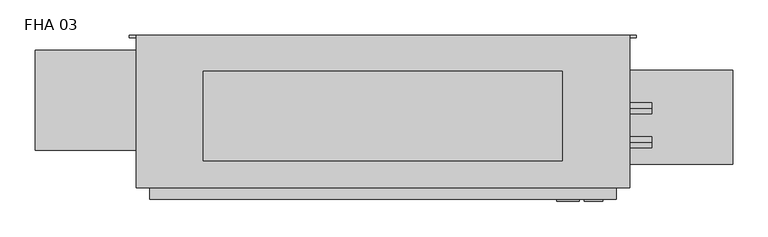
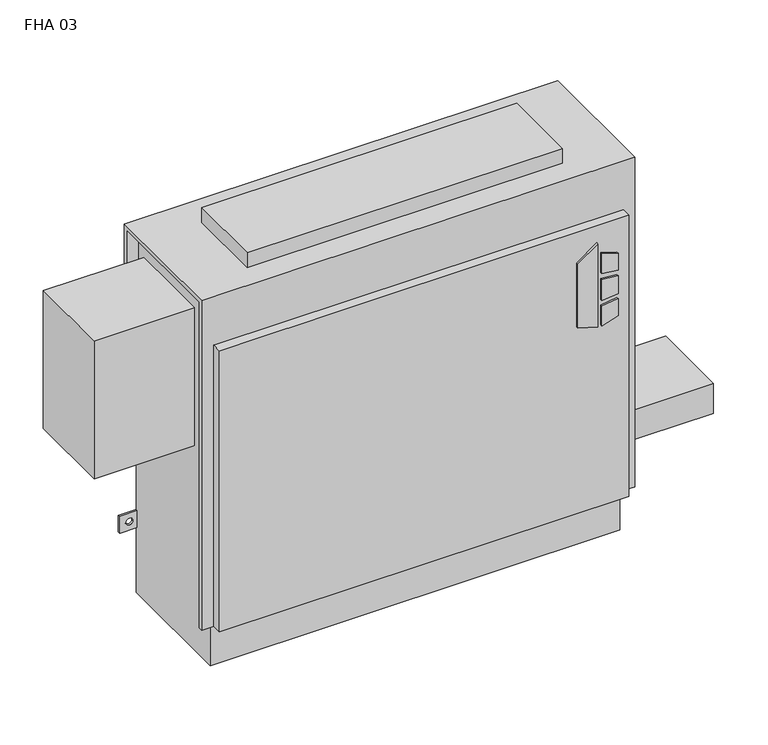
"""IFC4 building model written with IfcOpenShell, lengths in millimetres: proxy geometry, Vertical_Fan_Coil_Unit_-_FHA_-_IEC_-_2-Pipe_TS-FR_RH_2022 : FHA 03."""

from ifc_helpers import new_model, si_unit, point, frame, frame_2d, origin, place, context, project, spatial, polyline, circle_curve, trimmed, segment, composite_curve, outline, extrude, source, transform, mapped, element, save
from ifc_brep_helpers import plane_surface, revolved_surface, advanced_brep


def fha_03_b07dfba9(model_context):
    return source(origin(), model_context, "Body", "SolidModel", [
        extrude(outline(polyline([(391.6086829, 398.5368862), (381.6606126, 430.7102728), (523.831537, 430.7102728), (500.8095309, 398.5368862), (391.6086829, 398.5368862)])), frame((0.0, 9.525, 0.0), z_axis=(0.0, 1.0, 0.0), x_axis=(0.0, 0.0, 1.0)), (0.0, 0.0, 1.0), 3.175),
        extrude(outline(polyline([(470.6079683, 437.4686058), (467.4055757, 463.55), (496.6344168, 463.55), (504.6988318, 437.4686058), (470.6079683, 437.4686058)])), frame((0.0, 9.525, 0.0), z_axis=(0.0, 1.0, 0.0), x_axis=(0.0, 0.0, 1.0)), (0.0, 0.0, 1.0), 3.175),
        extrude(outline(polyline([(418.7444414, 463.55), (415.0789404, 437.4686058), (381.6606126, 437.4686058), (390.2948498, 463.55), (418.7444414, 463.55)])), frame((0.0, 9.525, 0.0), z_axis=(0.0, 1.0, 0.0), x_axis=(0.0, 0.0, 1.0)), (0.0, 0.0, 1.0), 3.175),
        extrude(outline(polyline([(458.0596028, 463.55), (460.3414292, 437.4686058), (424.4038806, 437.4686058), (427.1451456, 463.55), (458.0596028, 463.55)])), frame((0.0, 9.525, 0.0), z_axis=(0.0, 1.0, 0.0), x_axis=(0.0, 0.0, 1.0)), (0.0, 0.0, 1.0), 3.175),
        extrude(outline(composite_curve([segment(trimmed(circle_curve(frame_2d((546.1, 128.5875)), 9.525), [point((536.575, 128.5875))], [point((555.625, 128.5875))], False, "CARTESIAN"), True, "CONTINUOUS"), segment(trimmed(circle_curve(frame_2d((546.1, 128.5875)), 9.525), [point((555.625, 128.5875))], [point((536.575, 128.5875))], False, "CARTESIAN"), True, "CONTINUOUS")], self_intersect=False)), frame((0.0, 0.0, 101.6), z_axis=(0.0, 0.0, 1.0), x_axis=(1.0, 0.0, 0.0)), (0.0, 0.0, 1.0), 25.4),
        extrude(outline(polyline([(647.7, 195.2625), (647.7, 61.9125), (482.6, 61.9125), (482.6, 195.2625), (647.7, 195.2625)])), frame((0.0, 0.0, 127.0), z_axis=(0.0, 0.0, 1.0), x_axis=(1.0, 0.0, 0.0)), (0.0, 0.0, 1.0), 50.8),
        extrude(outline(polyline([(406.4, 193.675), (406.4, 66.675), (-101.6, 66.675), (-101.6, 193.675), (406.4, 193.675)])), frame((0.0, 0.0, 635.0), z_axis=(0.0, 0.0, 1.0), x_axis=(1.0, 0.0, 0.0)), (0.0, 0.0, 1.0), 25.4),
        extrude(outline(composite_curve([segment(trimmed(circle_curve(frame_2d((93.1926, 488.0102)), 7.9375), [point((93.1926, 480.0727))], [point((93.1926, 495.9477))], False, "CARTESIAN"), True, "CONTINUOUS"), segment(trimmed(circle_curve(frame_2d((93.1926, 488.0102)), 7.9375), [point((93.1926, 495.9477))], [point((93.1926, 480.0727))], False, "CARTESIAN"), True, "CONTINUOUS")], self_intersect=False)), frame((482.6, 0.0, 0.0), z_axis=(1.0, 0.0, 0.0), x_axis=(0.0, 1.0, 0.0)), (0.0, 0.0, 1.0), 50.8),
        extrude(outline(composite_curve([segment(trimmed(circle_curve(frame_2d((141.3002, 461.3402)), 7.9375), [point((141.3002, 453.4027))], [point((141.3002, 469.2777))], False, "CARTESIAN"), True, "CONTINUOUS"), segment(trimmed(circle_curve(frame_2d((141.3002, 461.3402)), 7.9375), [point((141.3002, 469.2777))], [point((141.3002, 453.4027))], False, "CARTESIAN"), True, "CONTINUOUS")], self_intersect=False)), frame((482.6, 0.0, 0.0), z_axis=(1.0, 0.0, 0.0), x_axis=(0.0, 1.0, 0.0)), (0.0, 0.0, 1.0), 50.8),
        extrude(outline(polyline([(-339.725, 223.266), (-177.8, 223.266), (-177.8, 81.534), (-339.725, 81.534), (-339.725, 223.266)])), frame((0.0, 0.0, 349.25), z_axis=(0.0, 0.0, 1.0), x_axis=(1.0, 0.0, 0.0)), (0.0, 0.0, 1.0), 234.95),
        advanced_brep(
        [(501.65, 244.475, 635.0), (-196.85, 244.475, 635.0), (-196.85, 28.575, 635.0), (501.65, 28.575, 635.0), (-177.8, 244.475, 0.0), (482.6, 244.475, 0.0), (482.6, 38.1, 0.0), (-177.8, 38.1, 0.0), (501.65, 244.475, 558.8), (482.6, 244.475, 558.8), (482.6, 244.475, 414.3375), (511.175, 244.475, 414.3375), (511.175, 244.475, 385.7625), (482.6, 244.475, 385.7625), (482.6, 244.475, 287.3375), (511.175, 244.475, 287.3375), (511.175, 244.475, 258.7625), (482.6, 244.475, 258.7625), (482.6, 244.475, 141.2875), (511.175, 244.475, 141.2875), (511.175, 244.475, 112.7125), (482.6, 244.475, 112.7125), (-177.8, 244.475, 112.7125), (-206.375, 244.475, 112.7125), (-206.375, 244.475, 141.2875), (-177.8, 244.475, 141.2875), (-177.8, 244.475, 258.7625), (-206.375, 244.475, 258.7625), (-206.375, 244.475, 287.3375), (-177.8, 244.475, 287.3375), (-177.8, 244.475, 385.7625), (-206.375, 244.475, 385.7625), (-206.375, 244.475, 414.3375), (-177.8, 244.475, 414.3375), (-177.8, 244.475, 558.8), (-196.85, 244.475, 558.8), (500.8626, 244.475, 127.0), (489.7374, 244.475, 127.0), (-184.9374, 244.475, 127.0), (-196.0626, 244.475, 127.0), (500.8626, 244.475, 273.05), (489.7374, 244.475, 273.05), (-184.9374, 244.475, 273.05), (-196.0626, 244.475, 273.05), (500.8626, 244.475, 400.05), (489.7374, 244.475, 400.05), (-184.9374, 244.475, 400.05), (-196.0626, 244.475, 400.05), (-196.85, 238.125, 558.8), (-196.85, 238.125, 628.65), (-196.85, 34.925, 628.65), (-196.85, 34.925, 73.025), (-196.85, 28.575, 73.025), (482.6, 12.7, 552.45), (-177.8, 12.7, 552.45), (-177.8, 12.7, 73.025), (482.6, 12.7, 73.025), (501.65, 28.575, 73.025), (501.65, 34.925, 73.025), (501.65, 34.925, 628.65), (501.65, 238.125, 628.65), (501.65, 238.125, 558.8), (-177.8, 28.575, 73.025), (-177.8, 28.575, 552.45), (482.6, 28.575, 552.45), (482.6, 28.575, 73.025), (-177.8, 34.925, 73.025), (-177.8, 38.1, 73.025), (482.6, 38.1, 73.025), (482.6, 34.925, 73.025), (482.6, 241.3, 112.7125), (482.6, 241.3, 141.2875), (482.6, 241.3, 258.7625), (482.6, 241.3, 287.3375), (482.6, 241.3, 385.7625), (482.6, 241.3, 414.3375), (482.6, 238.125, 558.8), (482.6, 238.125, 628.65), (482.6, 34.925, 628.65), (-177.8, 34.925, 628.65), (-177.8, 238.125, 628.65), (-177.8, 238.125, 558.8), (-177.8, 241.3, 414.3375), (-177.8, 241.3, 385.7625), (-177.8, 241.3, 287.3375), (-177.8, 241.3, 258.7625), (-177.8, 241.3, 141.2875), (-177.8, 241.3, 112.7125), (511.175, 241.3, 112.7125), (511.175, 241.3, 141.2875), (489.7374, 241.3, 127.0), (500.8626, 241.3, 127.0), (511.175, 241.3, 258.7625), (511.175, 241.3, 287.3375), (489.7374, 241.3, 273.05), (500.8626, 241.3, 273.05), (511.175, 241.3, 385.7625), (511.175, 241.3, 414.3375), (489.7374, 241.3, 400.05), (500.8626, 241.3, 400.05), (-206.375, 241.3, 141.2875), (-206.375, 241.3, 112.7125), (-196.0626, 241.3, 127.0), (-184.9374, 241.3, 127.0), (-206.375, 241.3, 287.3375), (-206.375, 241.3, 258.7625), (-196.0626, 241.3, 273.05), (-184.9374, 241.3, 273.05), (-206.375, 241.3, 414.3375), (-206.375, 241.3, 385.7625), (-196.0626, 241.3, 400.05), (-184.9374, 241.3, 400.05)],
        [
            (0, 1),
            (1, 2),
            (2, 3),
            (3, 0),
            (4, 5),
            (5, 6),
            (6, 7),
            (7, 4),
            (0, 8),
            (8, 9),
            (9, 10),
            (10, 11),
            (11, 12),
            (12, 13),
            (13, 14),
            (14, 15),
            (15, 16),
            (16, 17),
            (17, 18),
            (18, 19),
            (19, 20),
            (20, 21),
            (21, 5),
            (4, 22),
            (22, 23),
            (23, 24),
            (24, 25),
            (25, 26),
            (26, 27),
            (27, 28),
            (28, 29),
            (29, 30),
            (30, 31),
            (31, 32),
            (32, 33),
            (33, 34),
            (34, 35),
            (35, 1),
            (36, 37, circle_curve(frame((495.3, 244.475, 127.0), z_axis=(0.0, -1.0, 0.0), x_axis=(-1.0, 0.0, 0.0)), 5.5626)),
            (37, 36, circle_curve(frame((495.3, 244.475, 127.0), z_axis=(0.0, -1.0, 0.0), x_axis=(-1.0, 0.0, 0.0)), 5.5626)),
            (38, 39, circle_curve(frame((-190.5, 244.475, 127.0), z_axis=(0.0, -1.0, 0.0), x_axis=(-1.0, 0.0, 0.0)), 5.5626)),
            (39, 38, circle_curve(frame((-190.5, 244.475, 127.0), z_axis=(0.0, -1.0, 0.0), x_axis=(-1.0, 0.0, 0.0)), 5.5626)),
            (40, 41, circle_curve(frame((495.3, 244.475, 273.05), z_axis=(0.0, -1.0, 0.0), x_axis=(-1.0, 0.0, 0.0)), 5.5626)),
            (41, 40, circle_curve(frame((495.3, 244.475, 273.05), z_axis=(0.0, -1.0, 0.0), x_axis=(-1.0, 0.0, 0.0)), 5.5626)),
            (42, 43, circle_curve(frame((-190.5, 244.475, 273.05), z_axis=(0.0, -1.0, 0.0), x_axis=(-1.0, 0.0, 0.0)), 5.5626)),
            (43, 42, circle_curve(frame((-190.5, 244.475, 273.05), z_axis=(0.0, -1.0, 0.0), x_axis=(-1.0, 0.0, 0.0)), 5.5626)),
            (44, 45, circle_curve(frame((495.3, 244.475, 400.05), z_axis=(0.0, -1.0, 0.0), x_axis=(-1.0, 0.0, 0.0)), 5.5626)),
            (45, 44, circle_curve(frame((495.3, 244.475, 400.05), z_axis=(0.0, -1.0, 0.0), x_axis=(-1.0, 0.0, 0.0)), 5.5626)),
            (46, 47, circle_curve(frame((-190.5, 244.475, 400.05), z_axis=(0.0, -1.0, 0.0), x_axis=(-1.0, 0.0, 0.0)), 5.5626)),
            (47, 46, circle_curve(frame((-190.5, 244.475, 400.05), z_axis=(0.0, -1.0, 0.0), x_axis=(-1.0, 0.0, 0.0)), 5.5626)),
            (35, 48),
            (48, 49),
            (49, 50),
            (50, 51),
            (51, 52),
            (52, 2),
            (53, 54),
            (54, 55),
            (55, 56),
            (56, 53),
            (3, 57),
            (57, 58),
            (58, 59),
            (59, 60),
            (60, 61),
            (61, 8),
            (52, 62),
            (62, 63),
            (63, 64),
            (64, 65),
            (65, 57),
            (53, 64),
            (63, 54),
            (55, 62),
            (51, 66),
            (66, 67),
            (67, 68),
            (68, 69),
            (69, 58),
            (65, 56),
            (6, 68),
            (67, 7),
            (21, 70),
            (70, 71),
            (71, 18),
            (17, 72),
            (72, 73),
            (73, 14),
            (13, 74),
            (74, 75),
            (75, 10),
            (9, 76),
            (76, 77),
            (77, 78),
            (78, 69),
            (66, 79),
            (79, 80),
            (80, 81),
            (81, 34),
            (33, 82),
            (82, 83),
            (83, 30),
            (29, 84),
            (84, 85),
            (85, 26),
            (25, 86),
            (86, 87),
            (87, 22),
            (76, 61),
            (60, 77),
            (78, 59),
            (50, 79),
            (81, 48),
            (80, 49),
            (70, 88),
            (88, 89),
            (89, 71),
            (90, 91, circle_curve(frame((495.3, 241.3, 127.0), z_axis=(0.0, 1.0, 0.0), x_axis=(-1.0, 0.0, 0.0)), 5.5626)),
            (91, 90, circle_curve(frame((495.3, 241.3, 127.0), z_axis=(0.0, 1.0, 0.0), x_axis=(-1.0, 0.0, 0.0)), 5.5626)),
            (92, 93),
            (93, 73),
            (72, 92),
            (94, 95, circle_curve(frame((495.3, 241.3, 273.05), z_axis=(0.0, 1.0, 0.0), x_axis=(-1.0, 0.0, 0.0)), 5.5626)),
            (95, 94, circle_curve(frame((495.3, 241.3, 273.05), z_axis=(0.0, 1.0, 0.0), x_axis=(-1.0, 0.0, 0.0)), 5.5626)),
            (96, 97),
            (97, 75),
            (74, 96),
            (98, 99, circle_curve(frame((495.3, 241.3, 400.05), z_axis=(0.0, 1.0, 0.0), x_axis=(-1.0, 0.0, 0.0)), 5.5626)),
            (99, 98, circle_curve(frame((495.3, 241.3, 400.05), z_axis=(0.0, 1.0, 0.0), x_axis=(-1.0, 0.0, 0.0)), 5.5626)),
            (100, 101),
            (101, 87),
            (86, 100),
            (102, 103, circle_curve(frame((-190.5, 241.3, 127.0), z_axis=(0.0, 1.0, 0.0), x_axis=(-1.0, 0.0, 0.0)), 5.5626)),
            (103, 102, circle_curve(frame((-190.5, 241.3, 127.0), z_axis=(0.0, 1.0, 0.0), x_axis=(-1.0, 0.0, 0.0)), 5.5626)),
            (84, 104),
            (104, 105),
            (105, 85),
            (106, 107, circle_curve(frame((-190.5, 241.3, 273.05), z_axis=(0.0, 1.0, 0.0), x_axis=(-1.0, 0.0, 0.0)), 5.5626)),
            (107, 106, circle_curve(frame((-190.5, 241.3, 273.05), z_axis=(0.0, 1.0, 0.0), x_axis=(-1.0, 0.0, 0.0)), 5.5626)),
            (108, 109),
            (109, 83),
            (82, 108),
            (110, 111, circle_curve(frame((-190.5, 241.3, 400.05), z_axis=(0.0, 1.0, 0.0), x_axis=(-1.0, 0.0, 0.0)), 5.5626)),
            (111, 110, circle_curve(frame((-190.5, 241.3, 400.05), z_axis=(0.0, 1.0, 0.0), x_axis=(-1.0, 0.0, 0.0)), 5.5626)),
            (89, 19),
            (88, 20),
            (16, 92),
            (93, 15),
            (12, 96),
            (97, 11),
            (24, 100),
            (101, 23),
            (105, 27),
            (104, 28),
            (32, 108),
            (109, 31),
            (90, 37),
            (36, 91),
            (102, 39),
            (38, 103),
            (94, 41),
            (40, 95),
            (106, 43),
            (42, 107),
            (98, 45),
            (44, 99),
            (110, 47),
            (46, 111),
        ],
        [
            plane_surface(frame((-196.85, 244.475, 635.0), z_axis=(0.0, 0.0, 1.0), x_axis=(-1.0, 0.0, 0.0))),
            plane_surface(frame((-196.85, 244.475, 0.0), z_axis=(0.0, 0.0, -1.0), x_axis=(1.0, 0.0, 0.0))),
            plane_surface(frame((501.65, 244.475, 635.0), z_axis=(0.0, 1.0, 0.0), x_axis=(0.0, 0.0, -1.0))),
            plane_surface(frame((-196.85, 244.475, 635.0), z_axis=(-1.0, 0.0, 0.0), x_axis=(0.0, 0.0, -1.0))),
            plane_surface(frame((-196.85, 12.7, 635.0), z_axis=(0.0, -1.0, 0.0), x_axis=(0.0, 0.0, -1.0))),
            plane_surface(frame((501.65, 12.7, 635.0), z_axis=(1.0, 0.0, 0.0), x_axis=(0.0, 0.0, -1.0))),
            plane_surface(frame((-247.65, 28.575, 635.0), z_axis=(0.0, -1.0, 0.0), x_axis=(1.0, 0.0, 0.0))),
            plane_surface(frame((-247.65, 28.575, 552.45), z_axis=(0.0, 0.0, 1.0), x_axis=(1.0, 0.0, 0.0))),
            plane_surface(frame((-196.85, 12.7, 73.025), z_axis=(0.0, 0.0, -1.0), x_axis=(1.0, 0.0, 0.0))),
            plane_surface(frame((-196.85, 38.1, 73.025), z_axis=(0.0, -1.0, 0.0), x_axis=(1.0, 0.0, 0.0))),
            plane_surface(frame((482.6, 28.575, 73.025), z_axis=(1.0, 0.0, 0.0), x_axis=(0.0, -1.0, 0.0))),
            plane_surface(frame((-177.8, 28.575, 552.45), z_axis=(-1.0, 0.0, 0.0), x_axis=(0.0, -1.0, 0.0))),
            plane_surface(frame((482.6, 244.475, 0.0), z_axis=(1.0, 0.0, 0.0), x_axis=(0.0, -1.0, 0.0))),
            plane_surface(frame((-177.8, 244.475, 73.025), z_axis=(-1.0, 0.0, 0.0), x_axis=(0.0, -1.0, 0.0))),
            plane_surface(frame((482.6, 238.125, 628.65), z_axis=(0.0, -1.0, 0.0), x_axis=(1.0, 0.0, 0.0))),
            plane_surface(frame((482.6, 238.125, 558.8), z_axis=(0.0, 0.0, -1.0), x_axis=(1.0, 0.0, 0.0))),
            plane_surface(frame((482.6, 34.925, 73.025), z_axis=(0.0, 1.0, 0.0), x_axis=(1.0, 0.0, 0.0))),
            plane_surface(frame((482.6, 34.925, 628.65), z_axis=(0.0, 0.0, -1.0), x_axis=(1.0, 0.0, 0.0))),
            plane_surface(frame((-177.8, 34.925, 628.65), z_axis=(0.0, 1.0, 0.0), x_axis=(-1.0, 0.0, 0.0))),
            plane_surface(frame((-177.8, 244.475, 558.8), z_axis=(0.0, 0.0, -1.0), x_axis=(-1.0, 0.0, 0.0))),
            plane_surface(frame((-177.8, 238.125, 558.8), z_axis=(0.0, -1.0, 0.0), x_axis=(-1.0, 0.0, 0.0))),
            plane_surface(frame((-177.8, 238.125, 628.65), z_axis=(0.0, 0.0, -1.0), x_axis=(-1.0, 0.0, 0.0))),
            plane_surface(frame((511.175, 241.3, 141.2875), z_axis=(0.0, -1.0, 0.0), x_axis=(-1.0, 0.0, 0.0))),
            plane_surface(frame((482.6, 244.475, 141.2875), z_axis=(0.0, 0.0, 1.0), x_axis=(0.0, -1.0, 0.0))),
            plane_surface(frame((511.175, 244.475, 141.2875), z_axis=(1.0, 0.0, 0.0), x_axis=(0.0, -1.0, 0.0))),
            plane_surface(frame((511.175, 244.475, 112.7125), z_axis=(0.0, 0.0, -1.0), x_axis=(0.0, -1.0, 0.0))),
            plane_surface(frame((511.175, 244.475, 258.7625), z_axis=(0.0, 0.0, -1.0), x_axis=(0.0, -1.0, 0.0))),
            plane_surface(frame((482.6, 244.475, 287.3375), z_axis=(0.0, 0.0, 1.0), x_axis=(0.0, -1.0, 0.0))),
            plane_surface(frame((511.175, 244.475, 287.3375), z_axis=(1.0, 0.0, 0.0), x_axis=(0.0, -1.0, 0.0))),
            plane_surface(frame((511.175, 244.475, 385.7625), z_axis=(0.0, 0.0, -1.0), x_axis=(0.0, -1.0, 0.0))),
            plane_surface(frame((482.6, 244.475, 414.3375), z_axis=(0.0, 0.0, 1.0), x_axis=(0.0, -1.0, 0.0))),
            plane_surface(frame((511.175, 244.475, 414.3375), z_axis=(1.0, 0.0, 0.0), x_axis=(0.0, -1.0, 0.0))),
            plane_surface(frame((-206.375, 244.475, 141.2875), z_axis=(0.0, 0.0, 1.0), x_axis=(0.0, -1.0, 0.0))),
            plane_surface(frame((-177.8, 244.475, 112.7125), z_axis=(0.0, 0.0, -1.0), x_axis=(0.0, -1.0, 0.0))),
            plane_surface(frame((-206.375, 244.475, 112.7125), z_axis=(-1.0, 0.0, 0.0), x_axis=(0.0, -1.0, 0.0))),
            plane_surface(frame((-177.8, 244.475, 258.7625), z_axis=(0.0, 0.0, -1.0), x_axis=(0.0, -1.0, 0.0))),
            plane_surface(frame((-206.375, 244.475, 258.7625), z_axis=(-1.0, 0.0, 0.0), x_axis=(0.0, -1.0, 0.0))),
            plane_surface(frame((-206.375, 244.475, 287.3375), z_axis=(0.0, 0.0, 1.0), x_axis=(0.0, -1.0, 0.0))),
            plane_surface(frame((-206.375, 244.475, 414.3375), z_axis=(0.0, 0.0, 1.0), x_axis=(0.0, -1.0, 0.0))),
            plane_surface(frame((-177.8, 244.475, 385.7625), z_axis=(0.0, 0.0, -1.0), x_axis=(0.0, -1.0, 0.0))),
            plane_surface(frame((-206.375, 244.475, 385.7625), z_axis=(-1.0, 0.0, 0.0), x_axis=(0.0, -1.0, 0.0))),
            revolved_surface(polyline([(489.73740000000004, 241.3, 127.0), (489.73740000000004, 244.475, 127.0)]), (495.3, 244.475, 127.0), (0.0, -1.0, 0.0)),
            revolved_surface(polyline([(-196.0626, 241.3, 127.0), (-196.0626, 244.475, 127.0)]), (-190.5, 244.475, 127.0), (0.0, -1.0, 0.0)),
            revolved_surface(polyline([(489.73740000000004, 241.3, 273.05), (489.73740000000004, 244.475, 273.05)]), (495.3, 244.475, 273.05), (0.0, -1.0, 0.0)),
            revolved_surface(polyline([(-196.0626, 241.3, 273.05), (-196.0626, 244.475, 273.05)]), (-190.5, 244.475, 273.05), (0.0, -1.0, 0.0)),
            revolved_surface(polyline([(489.73740000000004, 241.3, 400.05), (489.73740000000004, 244.475, 400.05)]), (495.3, 244.475, 400.05), (0.0, -1.0, 0.0)),
            revolved_surface(polyline([(-196.0626, 241.3, 400.05), (-196.0626, 244.475, 400.05)]), (-190.5, 244.475, 400.05), (0.0, -1.0, 0.0)),
        ],
        [
            (0, [[1, 2, 3, 4]]),
            (1, [[5, 6, 7, 8]]),
            (2, [[-1, 9, 10, 11, 12, 13, 14, 15, 16, 17, 18, 19, 20, 21, 22, 23, -5, 24, 25, 26, 27, 28, 29, 30, 31, 32, 33, 34, 35, 36, 37, 38], [39, 40], [41, 42], [43, 44], [45, 46], [47, 48], [49, 50]]),
            (3, [[-2, -38, 51, 52, 53, 54, 55, 56]]),
            (4, [[57, 58, 59, 60]]),
            (5, [[-4, 61, 62, 63, 64, 65, 66, -9]]),
            (6, [[-3, -56, 67, 68, 69, 70, 71, -61]]),
            (7, [[-57, 72, -69, 73]]),
            (8, [[-59, 74, -67, -55, 75, 76, 77, 78, 79, -62, -71, 80]]),
            (9, [[-7, 81, -77, 82]]),
            (10, [[-70, -72, -60, -80]]),
            (11, [[-68, -74, -58, -73]]),
            (12, [[-6, -23, 83, 84, 85, -19, 86, 87, 88, -15, 89, 90, 91, -11, 92, 93, 94, 95, -78, -81]]),
            (13, [[-8, -82, -76, 96, 97, 98, 99, -36, 100, 101, 102, -32, 103, 104, 105, -28, 106, 107, 108, -24]]),
            (14, [[-93, 109, -65, 110]]),
            (15, [[-92, -10, -66, -109]]),
            (16, [[-95, 111, -63, -79]]),
            (17, [[-94, -110, -64, -111]]),
            (18, [[-96, -75, -54, 112]]),
            (19, [[-99, 113, -51, -37]]),
            (20, [[-98, 114, -52, -113]]),
            (21, [[-97, -112, -53, -114]]),
            (22, [[115, 116, 117, -84], [118, 119]]),
            (22, [[120, 121, -87, 122], [123, 124]]),
            (22, [[125, 126, -90, 127], [128, 129]]),
            (22, [[130, 131, -107, 132], [133, 134]]),
            (22, [[135, 136, 137, -104], [138, 139]]),
            (22, [[140, 141, -101, 142], [143, 144]]),
            (23, [[-117, 145, -20, -85]]),
            (24, [[-116, 146, -21, -145]]),
            (25, [[-115, -83, -22, -146]]),
            (26, [[-122, -86, -18, 147]]),
            (27, [[-121, 148, -16, -88]]),
            (28, [[-120, -147, -17, -148]]),
            (29, [[-127, -89, -14, 149]]),
            (30, [[-126, 150, -12, -91]]),
            (31, [[-125, -149, -13, -150]]),
            (32, [[-132, -106, -27, 151]]),
            (33, [[-131, 152, -25, -108]]),
            (34, [[-130, -151, -26, -152]]),
            (35, [[-137, 153, -29, -105]]),
            (36, [[-136, 154, -30, -153]]),
            (37, [[-135, -103, -31, -154]]),
            (38, [[-142, -100, -35, 155]]),
            (39, [[-141, 156, -33, -102]]),
            (40, [[-140, -155, -34, -156]]),
            (41, [[157, -39, 158, -118]]),
            (41, [[-157, -119, -158, -40]]),
            (42, [[159, -41, 160, -133]]),
            (42, [[-159, -134, -160, -42]]),
            (43, [[161, -43, 162, -123]]),
            (43, [[-161, -124, -162, -44]]),
            (44, [[163, -45, 164, -138]]),
            (44, [[-163, -139, -164, -46]]),
            (45, [[165, -47, 166, -128]]),
            (45, [[-165, -129, -166, -48]]),
            (46, [[167, -49, 168, -143]]),
            (46, [[-167, -144, -168, -50]]),
        ],
    ),
    ])


if __name__ == "__main__":
    model = new_model("IFC4")
    model_context = context("Model", 3, world=origin())
    ifc_project = project(units=[si_unit("LENGTHUNIT", "METRE", prefix="MILLI")], contexts=[model_context])
    site = spatial("IfcSite", under=ifc_project)
    building = spatial("IfcBuilding", under=site)
    placement = place(None, origin())
    fha_03_shape = fha_03_b07dfba9(model_context)
    element("IfcBuildingElementProxy", 1, Name="Vertical_Fan_Coil_Unit_-_FHA_-_IEC_-_2-Pipe_TS-FR_RH_2022 : FHA 03", ObjectType="Vertical_Fan_Coil_Unit_-_FHA_-_IEC_-_2-Pipe_TS-FR_RH_2022 : FHA 03", at=placement, inside=building, context=model_context, shape_type="MappedRepresentation", body=[
        mapped(fha_03_shape, transform((0.0, 0.0, 0.0), x_axis=(1.0, 0.0, 0.0), y_axis=(0.0, 1.0, 0.0), z_axis=(0.0, 0.0, 1.0))),
    ])
    save(model, "model.ifc")
